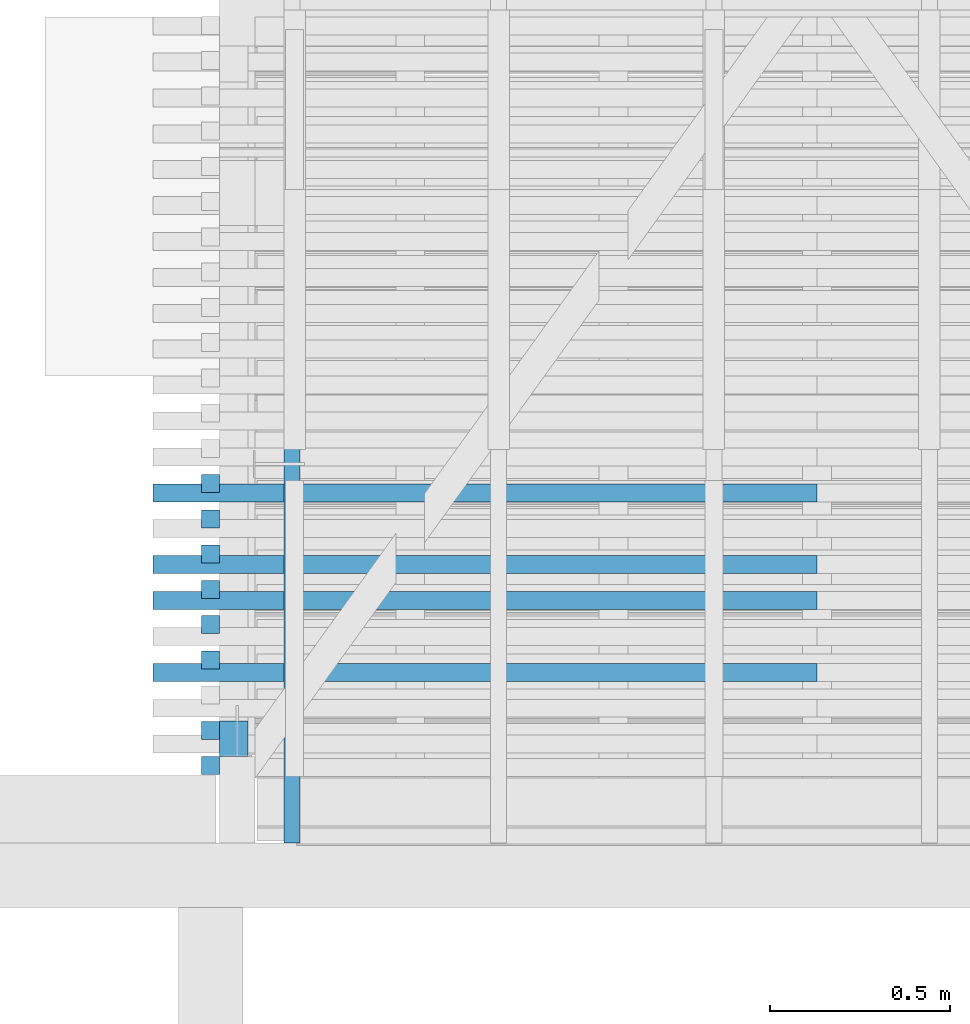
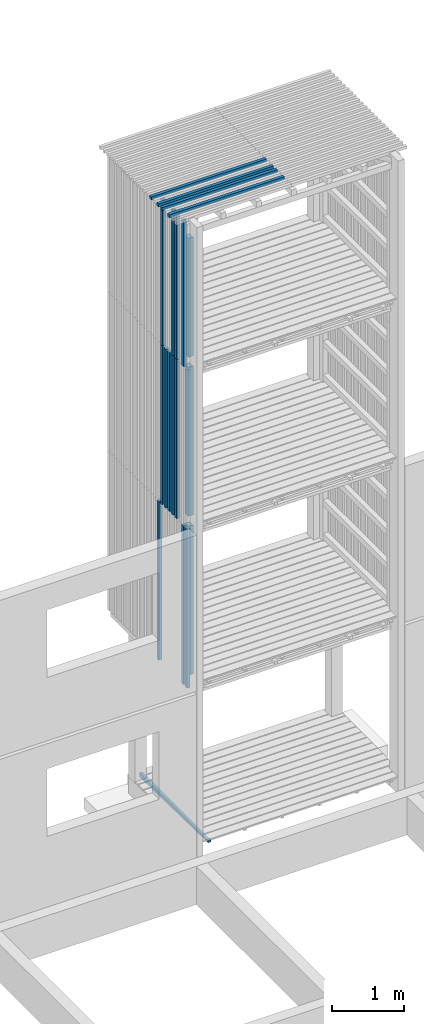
# One storey, part 33 of 182: 20 beams.
"""IFC2X3 building model written with IfcOpenShell, lengths in metres."""

from ifc_helpers import new_model, si_unit, frame, origin, place, context, project, spatial, faceted_brep, element, save


model = new_model("IFC2X3")

# Units and contexts
model_context = context("Model", 3, precision=1e-06, world=origin())
ifc_project = project(units=[si_unit("LENGTHUNIT", "METRE"), si_unit("PLANEANGLEUNIT", "RADIAN")], contexts=[model_context])

# Site, building, storey
site = spatial("IfcSite", under=ifc_project, CompositionType="ELEMENT")
building = spatial("IfcBuilding", under=site, CompositionType="ELEMENT")
storey = spatial("IfcBuildingStorey", under=building, Name="vs", CompositionType="ELEMENT", Elevation=-0.85)

# Beams
placement = place(None, origin())
beam_1_placement = place(placement, frame((14.989197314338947, 11.245077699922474, 10.47999999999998), z_axis=(0.0, 0.0, 1.0), x_axis=(-1.0, 0.0, 0.0)))
element("IfcBeam", 1, at=beam_1_placement, inside=storey, Name="Bardage", context=model_context, shape_type="Brep", body=[
    faceted_brep([(1.850000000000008, -0.024999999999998, -0.024999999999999), (1.850000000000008, -0.024999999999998, 0.025000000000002), (-1e-15, -0.024999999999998, 0.025000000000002), (-1e-15, -0.024999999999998, -0.024999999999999), (1.850000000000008, -0.024999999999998, 0.025000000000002), (1.850000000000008, -0.024999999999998, -0.024999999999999), (1.850000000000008, 0.024999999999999, -0.024999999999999), (1.850000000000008, 0.024999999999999, 0.025000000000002), (1.850000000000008, 0.024999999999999, -0.024999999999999), (1.850000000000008, -0.024999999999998, -0.024999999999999), (-1e-15, -0.024999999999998, -0.024999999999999), (-1e-15, 0.024999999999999, -0.024999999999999), (1.850000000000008, 0.024999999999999, 0.025000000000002), (1.850000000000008, 0.024999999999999, -0.024999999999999), (-1e-15, 0.024999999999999, -0.024999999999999), (-1e-15, 0.024999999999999, 0.025000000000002), (-1e-15, -0.024999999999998, 0.025000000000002), (1.850000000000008, -0.024999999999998, 0.025000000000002), (1.850000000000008, 0.024999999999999, 0.025000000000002), (-1e-15, 0.024999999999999, 0.025000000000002), (-1e-15, -0.024999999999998, -0.024999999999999), (-1e-15, -0.024999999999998, 0.025000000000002), (-1e-15, 0.024999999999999, 0.025000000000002), (-1e-15, 0.024999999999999, -0.024999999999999)], [[[0, 1, 2, 3]], [[4, 5, 6, 7]], [[8, 9, 10, 11]], [[12, 13, 14, 15]], [[16, 17, 18, 19]], [[20, 21, 22, 23]]]),
])
beam_2_placement = place(placement, frame((13.299197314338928, 11.37235042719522, 7.974999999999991), z_axis=(1.0, 0.0, 0.0), x_axis=(0.0, 0.0, 1.0)))
element("IfcBeam", 2, at=beam_2_placement, inside=storey, Name="Bardage", context=model_context, shape_type="Brep", body=[
    faceted_brep([(0.0, -0.024999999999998, 0.025000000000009), (0.0, 0.024999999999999, 0.025000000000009), (0.0, 0.024999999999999, -0.025000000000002), (0.0, -0.024999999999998, -0.025000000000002), (2.479999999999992, 0.024999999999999, -0.025000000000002), (2.479999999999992, 0.024999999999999, 0.025000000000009), (2.479999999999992, -0.024999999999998, 0.025000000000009), (2.479999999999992, -0.024999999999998, -0.025000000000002), (0.0, 0.024999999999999, 0.025000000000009), (0.0, -0.024999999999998, 0.025000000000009), (2.479999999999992, -0.024999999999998, 0.025000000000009), (2.479999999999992, 0.024999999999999, 0.025000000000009), (0.0, 0.024999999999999, -0.025000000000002), (0.0, 0.024999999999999, 0.025000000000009), (2.479999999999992, 0.024999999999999, 0.025000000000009), (2.479999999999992, 0.024999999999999, -0.025000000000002), (0.0, -0.024999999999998, -0.025000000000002), (0.0, 0.024999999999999, -0.025000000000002), (2.479999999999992, 0.024999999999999, -0.025000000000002), (2.479999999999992, -0.024999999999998, -0.025000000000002), (2.479999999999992, -0.024999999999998, 0.025000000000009), (0.0, -0.024999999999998, 0.025000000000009), (0.0, -0.024999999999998, -0.025000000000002), (2.479999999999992, -0.024999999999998, -0.025000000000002)], [[[0, 1, 2, 3]], [[4, 5, 6, 7]], [[8, 9, 10, 11]], [[12, 13, 14, 15]], [[16, 17, 18, 19]], [[20, 21, 22, 23]]]),
])
beam_3_placement = place(placement, frame((13.299197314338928, 11.470532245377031, 2.575000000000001), z_axis=(1.0, 0.0, 0.0), x_axis=(0.0, 0.0, 1.0)))
element("IfcBeam", 3, at=beam_3_placement, inside=storey, Name="Bardage", context=model_context, shape_type="Brep", body=[
    faceted_brep([(2.699961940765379, -0.025000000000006, 0.025000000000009), (2.699961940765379, -0.025000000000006, -0.025000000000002), (2.699961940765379, 0.024999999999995, -0.025000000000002), (2.699961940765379, 0.024999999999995, 0.025000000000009), (0.0, -0.025000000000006, 0.025000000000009), (2.699961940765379, -0.025000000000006, 0.025000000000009), (2.699961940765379, 0.024999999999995, 0.025000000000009), (0.0, 0.024999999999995, 0.025000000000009), (0.0, -0.025000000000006, 0.025000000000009), (0.0, 0.024999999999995, 0.025000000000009), (0.0, 0.024999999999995, -0.025000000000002), (0.0, -0.025000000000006, -0.025000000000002), (0.0, -0.025000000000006, 0.025000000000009), (0.0, -0.025000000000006, -0.025000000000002), (2.699961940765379, -0.025000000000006, -0.025000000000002), (2.699961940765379, -0.025000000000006, 0.025000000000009), (0.0, -0.025000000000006, -0.025000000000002), (0.0, 0.024999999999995, -0.025000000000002), (2.699961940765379, 0.024999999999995, -0.025000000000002), (2.699961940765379, -0.025000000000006, -0.025000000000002), (0.0, 0.024999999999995, -0.025000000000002), (0.0, 0.024999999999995, 0.025000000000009), (2.699961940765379, 0.024999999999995, 0.025000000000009), (2.699961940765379, 0.024999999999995, -0.025000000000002)], [[[0, 1, 2, 3]], [[4, 5, 6, 7]], [[8, 9, 10, 11]], [[12, 13, 14, 15]], [[16, 17, 18, 19]], [[20, 21, 22, 23]]]),
])
beam_4_placement = place(placement, frame((13.299197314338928, 10.78325951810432, 2.575000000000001), z_axis=(1.0, 0.0, 0.0), x_axis=(0.0, 0.0, 1.0)))
element("IfcBeam", 4, at=beam_4_placement, inside=storey, Name="Bardage", context=model_context, shape_type="Brep", body=[
    faceted_brep([(2.699961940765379, -0.024999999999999, 0.025000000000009), (2.699961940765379, -0.024999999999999, -0.025000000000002), (2.699961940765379, 0.025000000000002, -0.025000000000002), (2.699961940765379, 0.025000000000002, 0.025000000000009), (0.0, -0.024999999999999, 0.025000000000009), (2.699961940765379, -0.024999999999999, 0.025000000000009), (2.699961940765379, 0.025000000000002, 0.025000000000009), (0.0, 0.025000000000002, 0.025000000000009), (0.0, -0.024999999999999, 0.025000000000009), (0.0, 0.025000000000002, 0.025000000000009), (0.0, 0.025000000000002, -0.025000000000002), (0.0, -0.024999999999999, -0.025000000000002), (0.0, -0.024999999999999, 0.025000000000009), (0.0, -0.024999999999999, -0.025000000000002), (2.699961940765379, -0.024999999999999, -0.025000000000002), (2.699961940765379, -0.024999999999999, 0.025000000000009), (0.0, -0.024999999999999, -0.025000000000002), (0.0, 0.025000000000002, -0.025000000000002), (2.699961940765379, 0.025000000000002, -0.025000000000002), (2.699961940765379, -0.024999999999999, -0.025000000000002), (0.0, 0.025000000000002, -0.025000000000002), (0.0, 0.025000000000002, 0.025000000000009), (2.699961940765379, 0.025000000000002, 0.025000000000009), (2.699961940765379, 0.025000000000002, -0.025000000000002)], [[[0, 1, 2, 3]], [[4, 5, 6, 7]], [[8, 9, 10, 11]], [[12, 13, 14, 15]], [[16, 17, 18, 19]], [[20, 21, 22, 23]]]),
])
beam_5_placement = place(placement, frame((13.364197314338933, 10.760077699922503, 2.746999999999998), z_axis=(0.0, 1.0, 0.0), x_axis=(0.0, 0.0, 1.0)))
element("IfcBeam", 5, at=beam_5_placement, inside=storey, Name="Support bardage", context=model_context, shape_type="Brep", body=[
    faceted_brep([(2.527961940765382, 0.040000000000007, -0.050000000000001), (2.527961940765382, 0.040000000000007, 0.05), (2.527961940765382, -0.039999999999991, 0.05), (2.527961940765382, -0.039999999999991, -0.050000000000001), (0.0, 0.040000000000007, -0.050000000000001), (2.527961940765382, 0.040000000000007, -0.050000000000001), (2.527961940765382, -0.039999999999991, -0.050000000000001), (0.0, -0.039999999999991, -0.050000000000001), (0.0, 0.040000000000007, -0.050000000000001), (0.0, -0.039999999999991, -0.050000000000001), (0.0, -0.039999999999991, 0.05), (0.0, 0.040000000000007, 0.05), (0.0, 0.040000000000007, -0.050000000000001), (0.0, 0.040000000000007, 0.05), (2.527961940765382, 0.040000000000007, 0.05), (2.527961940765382, 0.040000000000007, -0.050000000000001), (0.0, 0.040000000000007, 0.05), (0.0, -0.039999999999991, 0.05), (2.527961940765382, -0.039999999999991, 0.05), (2.527961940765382, 0.040000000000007, 0.05), (0.0, -0.039999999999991, 0.05), (0.0, -0.039999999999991, -0.050000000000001), (2.527961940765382, -0.039999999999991, -0.050000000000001), (2.527961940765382, -0.039999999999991, 0.05)], [[[0, 1, 2, 3]], [[4, 5, 6, 7]], [[8, 9, 10, 11]], [[12, 13, 14, 15]], [[16, 17, 18, 19]], [[20, 21, 22, 23]]]),
])
beam_6_placement = place(placement, frame((13.299197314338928, 10.78325951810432, 7.974999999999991), z_axis=(1.0, 0.0, 0.0), x_axis=(0.0, 0.0, 1.0)))
element("IfcBeam", 6, at=beam_6_placement, inside=storey, Name="Bardage", context=model_context, shape_type="Brep", body=[
    faceted_brep([(0.0, -0.024999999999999, 0.025000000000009), (0.0, 0.025000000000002, 0.025000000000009), (0.0, 0.025000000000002, -0.025000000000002), (0.0, -0.024999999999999, -0.025000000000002), (2.479999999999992, 0.025000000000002, -0.025000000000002), (2.479999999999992, 0.025000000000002, 0.025000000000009), (2.479999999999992, -0.024999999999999, 0.025000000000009), (2.479999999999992, -0.024999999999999, -0.025000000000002), (0.0, 0.025000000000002, 0.025000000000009), (0.0, -0.024999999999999, 0.025000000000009), (2.479999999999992, -0.024999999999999, 0.025000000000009), (2.479999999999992, 0.025000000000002, 0.025000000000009), (0.0, 0.025000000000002, -0.025000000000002), (0.0, 0.025000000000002, 0.025000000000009), (2.479999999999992, 0.025000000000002, 0.025000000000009), (2.479999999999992, 0.025000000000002, -0.025000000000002), (0.0, -0.024999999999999, -0.025000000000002), (0.0, 0.025000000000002, -0.025000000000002), (2.479999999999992, 0.025000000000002, -0.025000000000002), (2.479999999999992, -0.024999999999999, -0.025000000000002), (2.479999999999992, -0.024999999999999, 0.025000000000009), (0.0, -0.024999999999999, 0.025000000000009), (0.0, -0.024999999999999, -0.025000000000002), (2.479999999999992, -0.024999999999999, -0.025000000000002)], [[[0, 1, 2, 3]], [[4, 5, 6, 7]], [[8, 9, 10, 11]], [[12, 13, 14, 15]], [[16, 17, 18, 19]], [[20, 21, 22, 23]]]),
])
beam_7_placement = place(placement, frame((13.299197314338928, 11.274168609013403, 5.274999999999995), z_axis=(1.0, 0.0, 0.0), x_axis=(0.0, 0.0, 1.0)))
element("IfcBeam", 7, at=beam_7_placement, inside=storey, Name="Bardage", context=model_context, shape_type="Brep", body=[
    faceted_brep([(2.699999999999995, 0.025000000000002, 0.025000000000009), (2.699999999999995, -0.025000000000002, 0.025000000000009), (2.699999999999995, -0.025000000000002, -0.025000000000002), (2.699999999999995, 0.025000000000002, -0.025000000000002), (1e-15, 0.025000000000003, 0.025000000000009), (2.699999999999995, 0.025000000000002, 0.025000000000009), (2.699999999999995, 0.025000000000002, -0.025000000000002), (1e-15, 0.025000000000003, -0.025000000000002), (1e-15, -0.025000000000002, 0.025000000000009), (1e-15, 0.025000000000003, 0.025000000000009), (1e-15, 0.025000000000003, -0.025000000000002), (1e-15, -0.025000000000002, -0.025000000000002), (1e-15, 0.025000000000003, 0.025000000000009), (1e-15, -0.025000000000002, 0.025000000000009), (2.699999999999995, -0.025000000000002, 0.025000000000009), (2.699999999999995, 0.025000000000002, 0.025000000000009), (1e-15, -0.025000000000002, 0.025000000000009), (1e-15, -0.025000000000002, -0.025000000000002), (2.699999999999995, -0.025000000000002, -0.025000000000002), (2.699999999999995, -0.025000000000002, 0.025000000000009), (1e-15, -0.025000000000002, -0.025000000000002), (1e-15, 0.025000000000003, -0.025000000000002), (2.699999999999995, 0.025000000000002, -0.025000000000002), (2.699999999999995, -0.025000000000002, -0.025000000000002)], [[[0, 1, 2, 3]], [[4, 5, 6, 7]], [[8, 9, 10, 11]], [[12, 13, 14, 15]], [[16, 17, 18, 19]], [[20, 21, 22, 23]]]),
])
beam_8_placement = place(placement, frame((13.364197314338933, 10.760077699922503, 5.446999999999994), z_axis=(0.0, 1.0, 0.0), x_axis=(0.0, 0.0, 1.0)))
element("IfcBeam", 8, at=beam_8_placement, inside=storey, Name="Support bardage", context=model_context, shape_type="Brep", body=[
    faceted_brep([(2.527999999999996, -0.039999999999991, -0.050000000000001), (2.527999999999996, 0.040000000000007, -0.050000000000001), (2.527999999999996, 0.040000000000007, 0.05), (2.527999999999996, -0.039999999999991, 0.05), (-1e-15, -0.039999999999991, -0.050000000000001), (2.527999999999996, -0.039999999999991, -0.050000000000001), (2.527999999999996, -0.039999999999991, 0.05), (-1e-15, -0.039999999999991, 0.05), (-1e-15, -0.039999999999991, -0.050000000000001), (-1e-15, -0.039999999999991, 0.05), (-1e-15, 0.040000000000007, 0.05), (-1e-15, 0.040000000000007, -0.050000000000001), (-1e-15, -0.039999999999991, -0.050000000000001), (-1e-15, 0.040000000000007, -0.050000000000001), (2.527999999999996, 0.040000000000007, -0.050000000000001), (2.527999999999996, -0.039999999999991, -0.050000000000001), (-1e-15, 0.040000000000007, -0.050000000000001), (-1e-15, 0.040000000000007, 0.05), (2.527999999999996, 0.040000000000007, 0.05), (2.527999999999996, 0.040000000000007, -0.050000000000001), (-1e-15, 0.040000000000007, 0.05), (-1e-15, -0.039999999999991, 0.05), (2.527999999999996, -0.039999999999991, 0.05), (2.527999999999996, 0.040000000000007, 0.05)], [[[0, 1, 2, 3]], [[4, 5, 6, 7]], [[8, 9, 10, 11]], [[12, 13, 14, 15]], [[16, 17, 18, 19]], [[20, 21, 22, 23]]]),
])
beam_9_placement = place(placement, frame((13.299197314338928, 11.07780497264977, 5.274999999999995), z_axis=(1.0, 0.0, 0.0), x_axis=(0.0, 0.0, 1.0)))
element("IfcBeam", 9, at=beam_9_placement, inside=storey, Name="Bardage", context=model_context, shape_type="Brep", body=[
    faceted_brep([(2.699999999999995, 0.025000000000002, 0.025000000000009), (2.699999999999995, -0.024999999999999, 0.025000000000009), (2.699999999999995, -0.024999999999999, -0.025000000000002), (2.699999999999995, 0.025000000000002, -0.025000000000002), (1e-15, 0.025000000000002, 0.025000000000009), (2.699999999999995, 0.025000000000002, 0.025000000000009), (2.699999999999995, 0.025000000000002, -0.025000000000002), (1e-15, 0.025000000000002, -0.025000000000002), (1e-15, -0.024999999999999, 0.025000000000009), (1e-15, 0.025000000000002, 0.025000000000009), (1e-15, 0.025000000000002, -0.025000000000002), (1e-15, -0.024999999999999, -0.025000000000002), (1e-15, 0.025000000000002, 0.025000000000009), (1e-15, -0.024999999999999, 0.025000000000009), (2.699999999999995, -0.024999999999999, 0.025000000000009), (2.699999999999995, 0.025000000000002, 0.025000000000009), (1e-15, -0.024999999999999, 0.025000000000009), (1e-15, -0.024999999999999, -0.025000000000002), (2.699999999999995, -0.024999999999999, -0.025000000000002), (2.699999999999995, -0.024999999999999, 0.025000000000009), (1e-15, -0.024999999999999, -0.025000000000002), (1e-15, 0.025000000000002, -0.025000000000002), (2.699999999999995, 0.025000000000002, -0.025000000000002), (2.699999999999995, -0.024999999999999, -0.025000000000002)], [[[0, 1, 2, 3]], [[4, 5, 6, 7]], [[8, 9, 10, 11]], [[12, 13, 14, 15]], [[16, 17, 18, 19]], [[20, 21, 22, 23]]]),
])
beam_10_placement = place(placement, frame((13.364197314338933, 10.760077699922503, 8.14699999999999), z_axis=(0.0, 1.0, 0.0), x_axis=(0.0, 0.0, 1.0)))
element("IfcBeam", 10, at=beam_10_placement, inside=storey, Name="Support bardage", context=model_context, shape_type="Brep", body=[
    faceted_brep([(2.017999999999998, -0.039999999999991, 0.05), (2.017999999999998, -0.039999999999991, -0.050000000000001), (2.017999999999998, 0.040000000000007, -0.050000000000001), (2.017999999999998, 0.040000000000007, 0.05), (1e-15, -0.039999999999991, -0.050000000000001), (1e-15, -0.039999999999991, 0.05), (1e-15, 0.040000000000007, 0.05), (1e-15, 0.040000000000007, -0.050000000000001), (2.017999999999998, 0.040000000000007, -0.050000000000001), (2.017999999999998, -0.039999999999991, -0.050000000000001), (1e-15, -0.039999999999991, -0.050000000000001), (1e-15, 0.040000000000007, -0.050000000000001), (1e-15, -0.039999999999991, -0.050000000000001), (2.017999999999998, -0.039999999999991, -0.050000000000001), (2.017999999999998, -0.039999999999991, 0.05), (1e-15, -0.039999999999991, 0.05), (1e-15, -0.039999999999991, 0.05), (2.017999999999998, -0.039999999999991, 0.05), (2.017999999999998, 0.040000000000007, 0.05), (1e-15, 0.040000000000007, 0.05), (1e-15, 0.040000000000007, 0.05), (2.017999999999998, 0.040000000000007, 0.05), (2.017999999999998, 0.040000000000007, -0.050000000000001), (1e-15, 0.040000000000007, -0.050000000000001)], [[[0, 1, 2, 3]], [[4, 5, 6, 7]], [[8, 9, 10, 11]], [[12, 13, 14, 15]], [[16, 17, 18, 19]], [[20, 21, 22, 23]]]),
])
beam_11_placement = place(placement, frame((14.989197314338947, 11.445077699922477, 10.47999999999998), z_axis=(0.0, 0.0, 1.0), x_axis=(-1.0, -2e-15, 0.0)))
element("IfcBeam", 11, at=beam_11_placement, inside=storey, Name="Bardage", context=model_context, shape_type="Brep", body=[
    faceted_brep([(1.850000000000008, -0.025000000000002, -0.024999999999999), (1.850000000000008, -0.025000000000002, 0.025000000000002), (-1e-15, -0.024999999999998, 0.025000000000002), (-1e-15, -0.024999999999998, -0.024999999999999), (1.850000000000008, -0.025000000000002, 0.025000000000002), (1.850000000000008, -0.025000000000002, -0.024999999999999), (1.850000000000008, 0.025000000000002, -0.024999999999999), (1.850000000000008, 0.025000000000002, 0.025000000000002), (1.850000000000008, 0.025000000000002, -0.024999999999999), (1.850000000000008, -0.025000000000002, -0.024999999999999), (-1e-15, -0.024999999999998, -0.024999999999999), (-1e-15, 0.025000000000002, -0.024999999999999), (1.850000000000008, 0.025000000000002, 0.025000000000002), (1.850000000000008, 0.025000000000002, -0.024999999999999), (-1e-15, 0.025000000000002, -0.024999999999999), (-1e-15, 0.025000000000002, 0.025000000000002), (-1e-15, -0.024999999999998, 0.025000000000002), (1.850000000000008, -0.025000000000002, 0.025000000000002), (1.850000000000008, 0.025000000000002, 0.025000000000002), (-1e-15, 0.025000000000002, 0.025000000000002), (-1e-15, -0.024999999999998, -0.024999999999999), (-1e-15, -0.024999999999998, 0.025000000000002), (-1e-15, 0.025000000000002, 0.025000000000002), (-1e-15, 0.025000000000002, -0.024999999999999)], [[[0, 1, 2, 3]], [[4, 5, 6, 7]], [[8, 9, 10, 11]], [[12, 13, 14, 15]], [[16, 17, 18, 19]], [[20, 21, 22, 23]]]),
])
beam_12_placement = place(placement, frame((13.299197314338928, 10.97962315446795, 5.274999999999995), z_axis=(1.0, 0.0, 0.0), x_axis=(0.0, 1e-15, 1.0)))
element("IfcBeam", 12, at=beam_12_placement, inside=storey, Name="Bardage", context=model_context, shape_type="Brep", body=[
    faceted_brep([(2.699999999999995, 0.025000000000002, 0.025000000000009), (2.699999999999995, -0.024999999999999, 0.025000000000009), (2.699999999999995, -0.024999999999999, -0.025000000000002), (2.699999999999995, 0.025000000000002, -0.025000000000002), (1e-15, 0.024999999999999, 0.025000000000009), (2.699999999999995, 0.025000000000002, 0.025000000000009), (2.699999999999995, 0.025000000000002, -0.025000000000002), (1e-15, 0.024999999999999, -0.025000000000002), (1e-15, -0.025000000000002, 0.025000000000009), (1e-15, 0.024999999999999, 0.025000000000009), (1e-15, 0.024999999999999, -0.025000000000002), (1e-15, -0.025000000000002, -0.025000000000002), (1e-15, 0.024999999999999, 0.025000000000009), (1e-15, -0.025000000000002, 0.025000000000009), (2.699999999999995, -0.024999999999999, 0.025000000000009), (2.699999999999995, 0.025000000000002, 0.025000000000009), (1e-15, -0.025000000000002, 0.025000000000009), (1e-15, -0.025000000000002, -0.025000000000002), (2.699999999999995, -0.024999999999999, -0.025000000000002), (2.699999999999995, -0.024999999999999, 0.025000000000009), (1e-15, -0.025000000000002, -0.025000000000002), (1e-15, 0.024999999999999, -0.025000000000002), (2.699999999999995, 0.025000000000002, -0.025000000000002), (2.699999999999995, -0.024999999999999, -0.025000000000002)], [[[0, 1, 2, 3]], [[4, 5, 6, 7]], [[8, 9, 10, 11]], [[12, 13, 14, 15]], [[16, 17, 18, 19]], [[20, 21, 22, 23]]]),
])
beam_13_placement = place(placement, frame((13.299197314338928, 11.175986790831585, 5.274999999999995), z_axis=(1.0, 0.0, 0.0), x_axis=(0.0, 0.0, 1.0)))
element("IfcBeam", 13, at=beam_13_placement, inside=storey, Name="Bardage", context=model_context, shape_type="Brep", body=[
    faceted_brep([(2.699999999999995, 0.024999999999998, 0.025000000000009), (2.699999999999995, -0.024999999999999, 0.025000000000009), (2.699999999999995, -0.024999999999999, -0.025000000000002), (2.699999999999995, 0.024999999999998, -0.025000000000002), (1e-15, 0.024999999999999, 0.025000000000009), (2.699999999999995, 0.024999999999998, 0.025000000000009), (2.699999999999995, 0.024999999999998, -0.025000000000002), (1e-15, 0.024999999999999, -0.025000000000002), (1e-15, -0.024999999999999, 0.025000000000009), (1e-15, 0.024999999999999, 0.025000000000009), (1e-15, 0.024999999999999, -0.025000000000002), (1e-15, -0.024999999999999, -0.025000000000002), (1e-15, 0.024999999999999, 0.025000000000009), (1e-15, -0.024999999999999, 0.025000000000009), (2.699999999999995, -0.024999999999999, 0.025000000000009), (2.699999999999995, 0.024999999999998, 0.025000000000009), (1e-15, -0.024999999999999, 0.025000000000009), (1e-15, -0.024999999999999, -0.025000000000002), (2.699999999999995, -0.024999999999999, -0.025000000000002), (2.699999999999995, -0.024999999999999, 0.025000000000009), (1e-15, -0.024999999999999, -0.025000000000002), (1e-15, 0.024999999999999, -0.025000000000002), (2.699999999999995, 0.024999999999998, -0.025000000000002), (2.699999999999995, -0.024999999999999, -0.025000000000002)], [[[0, 1, 2, 3]], [[4, 5, 6, 7]], [[8, 9, 10, 11]], [[12, 13, 14, 15]], [[16, 17, 18, 19]], [[20, 21, 22, 23]]]),
])
beam_14_placement = place(placement, frame((13.299197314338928, 10.97962315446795, 7.974999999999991), z_axis=(1.0, 0.0, 0.0), x_axis=(0.0, 1e-15, 1.0)))
element("IfcBeam", 14, at=beam_14_placement, inside=storey, Name="Bardage", context=model_context, shape_type="Brep", body=[
    faceted_brep([(0.0, -0.025000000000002, 0.025000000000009), (0.0, 0.024999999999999, 0.025000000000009), (0.0, 0.024999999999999, -0.025000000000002), (0.0, -0.025000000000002, -0.025000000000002), (2.479999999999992, 0.025000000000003, -0.025000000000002), (2.479999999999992, 0.025000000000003, 0.025000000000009), (2.479999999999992, -0.024999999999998, 0.025000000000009), (2.479999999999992, -0.024999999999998, -0.025000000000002), (0.0, 0.024999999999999, 0.025000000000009), (0.0, -0.025000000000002, 0.025000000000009), (2.479999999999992, -0.024999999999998, 0.025000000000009), (2.479999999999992, 0.025000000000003, 0.025000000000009), (0.0, 0.024999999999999, -0.025000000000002), (0.0, 0.024999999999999, 0.025000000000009), (2.479999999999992, 0.025000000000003, 0.025000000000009), (2.479999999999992, 0.025000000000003, -0.025000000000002), (0.0, -0.025000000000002, -0.025000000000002), (0.0, 0.024999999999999, -0.025000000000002), (2.479999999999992, 0.025000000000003, -0.025000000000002), (2.479999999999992, -0.024999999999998, -0.025000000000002), (2.479999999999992, -0.024999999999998, 0.025000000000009), (0.0, -0.025000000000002, 0.025000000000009), (0.0, -0.025000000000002, -0.025000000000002), (2.479999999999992, -0.024999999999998, -0.025000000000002)], [[[0, 1, 2, 3]], [[4, 5, 6, 7]], [[8, 9, 10, 11]], [[12, 13, 14, 15]], [[16, 17, 18, 19]], [[20, 21, 22, 23]]]),
])
beam_15_placement = place(placement, frame((14.989197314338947, 11.145077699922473, 10.47999999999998), z_axis=(0.0, 0.0, 1.0), x_axis=(-1.0, 0.0, 0.0)))
element("IfcBeam", 15, at=beam_15_placement, inside=storey, Name="Bardage", context=model_context, shape_type="Brep", body=[
    faceted_brep([(1.850000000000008, -0.024999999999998, -0.024999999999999), (1.850000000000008, -0.024999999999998, 0.025000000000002), (-1e-15, -0.025000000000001, 0.025000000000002), (-1e-15, -0.025000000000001, -0.024999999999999), (1.850000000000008, -0.024999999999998, 0.025000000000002), (1.850000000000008, -0.024999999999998, -0.024999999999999), (1.850000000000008, 0.024999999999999, -0.024999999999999), (1.850000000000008, 0.024999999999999, 0.025000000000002), (1.850000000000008, 0.024999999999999, -0.024999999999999), (1.850000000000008, -0.024999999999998, -0.024999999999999), (-1e-15, -0.025000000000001, -0.024999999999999), (-1e-15, 0.024999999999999, -0.024999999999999), (1.850000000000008, 0.024999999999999, 0.025000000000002), (1.850000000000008, 0.024999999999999, -0.024999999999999), (-1e-15, 0.024999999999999, -0.024999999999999), (-1e-15, 0.024999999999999, 0.025000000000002), (-1e-15, -0.025000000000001, 0.025000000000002), (1.850000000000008, -0.024999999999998, 0.025000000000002), (1.850000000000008, 0.024999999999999, 0.025000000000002), (-1e-15, 0.024999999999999, 0.025000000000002), (-1e-15, -0.025000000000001, -0.024999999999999), (-1e-15, -0.025000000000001, 0.025000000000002), (-1e-15, 0.024999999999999, 0.025000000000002), (-1e-15, 0.024999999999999, -0.024999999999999)], [[[0, 1, 2, 3]], [[4, 5, 6, 7]], [[8, 9, 10, 11]], [[12, 13, 14, 15]], [[16, 17, 18, 19]], [[20, 21, 22, 23]]]),
])
beam_16_placement = place(placement, frame((13.299197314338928, 11.07780497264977, 7.974999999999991), z_axis=(1.0, 0.0, 0.0), x_axis=(0.0, 0.0, 1.0)))
element("IfcBeam", 16, at=beam_16_placement, inside=storey, Name="Bardage", context=model_context, shape_type="Brep", body=[
    faceted_brep([(0.0, -0.024999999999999, 0.025000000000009), (0.0, 0.025000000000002, 0.025000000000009), (0.0, 0.025000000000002, -0.025000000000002), (0.0, -0.024999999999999, -0.025000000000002), (2.479999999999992, 0.025000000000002, -0.025000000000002), (2.479999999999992, 0.025000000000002, 0.025000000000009), (2.479999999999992, -0.024999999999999, 0.025000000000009), (2.479999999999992, -0.024999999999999, -0.025000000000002), (0.0, 0.025000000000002, 0.025000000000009), (0.0, -0.024999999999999, 0.025000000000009), (2.479999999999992, -0.024999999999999, 0.025000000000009), (2.479999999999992, 0.025000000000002, 0.025000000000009), (0.0, 0.025000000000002, -0.025000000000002), (0.0, 0.025000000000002, 0.025000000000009), (2.479999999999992, 0.025000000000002, 0.025000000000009), (2.479999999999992, 0.025000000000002, -0.025000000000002), (0.0, -0.024999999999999, -0.025000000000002), (0.0, 0.025000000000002, -0.025000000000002), (2.479999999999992, 0.025000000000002, -0.025000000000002), (2.479999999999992, -0.024999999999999, -0.025000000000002), (2.479999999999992, -0.024999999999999, 0.025000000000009), (0.0, -0.024999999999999, 0.025000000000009), (0.0, -0.024999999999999, -0.025000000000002), (2.479999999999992, -0.024999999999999, -0.025000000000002)], [[[0, 1, 2, 3]], [[4, 5, 6, 7]], [[8, 9, 10, 11]], [[12, 13, 14, 15]], [[16, 17, 18, 19]], [[20, 21, 22, 23]]]),
])
beam_17_placement = place(placement, frame((13.526697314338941, 10.470077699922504, -0.015599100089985), z_axis=(0.0, 0.0, 1.0), x_axis=(0.0, 1.0, 0.0)))
element("IfcBeam", 17, at=beam_17_placement, inside=storey, Name="Calage", context=model_context, shape_type="Brep", body=[
    faceted_brep([(0.0, 0.022500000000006, 0.002600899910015), (1.910000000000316, 0.022500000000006, -0.035599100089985), (1.910000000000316, -0.022499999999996, -0.035599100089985), (0.0, -0.022499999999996, 0.002600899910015), (0.0, -0.022499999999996, 0.035599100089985), (0.0, 0.022500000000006, 0.035599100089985), (0.0, 0.022500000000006, 0.002600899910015), (0.0, -0.022499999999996, 0.002600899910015), (0.0, 0.022500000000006, 0.035599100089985), (0.0, -0.022499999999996, 0.035599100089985), (1.910000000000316, -0.022499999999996, 0.035599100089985), (1.910000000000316, 0.022500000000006, 0.035599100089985), (0.0, 0.022500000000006, 0.002600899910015), (0.0, 0.022500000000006, 0.035599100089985), (1.910000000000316, 0.022500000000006, 0.035599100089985), (1.910000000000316, 0.022500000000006, -0.035599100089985), (1.910000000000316, 0.022500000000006, -0.035599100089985), (1.910000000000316, 0.022500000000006, 0.035599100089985), (1.910000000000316, -0.022499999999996, 0.035599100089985), (1.910000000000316, -0.022499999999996, -0.035599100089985), (1.910000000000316, -0.022499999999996, -0.035599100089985), (1.910000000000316, -0.022499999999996, 0.035599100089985), (0.0, -0.022499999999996, 0.035599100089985), (0.0, -0.022499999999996, 0.002600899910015)], [[[0, 1, 2, 3]], [[4, 5, 6, 7]], [[8, 9, 10, 11]], [[12, 13, 14, 15]], [[16, 17, 18, 19]], [[20, 21, 22, 23]]]),
])
beam_18_placement = place(placement, frame((13.299197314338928, 10.685077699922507, 2.575000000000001), z_axis=(1.0, 0.0, 0.0), x_axis=(0.0, 0.0, 1.0)))
element("IfcBeam", 18, at=beam_18_placement, inside=storey, Name="Bardage", context=model_context, shape_type="Brep", body=[
    faceted_brep([(2.699961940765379, -0.024999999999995, 0.025000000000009), (2.699961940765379, -0.024999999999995, -0.025000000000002), (2.699961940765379, 0.025000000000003, -0.025000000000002), (2.699961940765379, 0.025000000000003, 0.025000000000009), (0.0, -0.024999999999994, 0.025000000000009), (2.699961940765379, -0.024999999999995, 0.025000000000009), (2.699961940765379, 0.025000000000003, 0.025000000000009), (0.0, 0.025000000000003, 0.025000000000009), (0.0, -0.024999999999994, 0.025000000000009), (0.0, 0.025000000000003, 0.025000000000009), (0.0, 0.025000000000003, -0.025000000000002), (0.0, -0.024999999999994, -0.025000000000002), (0.0, -0.024999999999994, 0.025000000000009), (0.0, -0.024999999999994, -0.025000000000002), (2.699961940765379, -0.024999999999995, -0.025000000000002), (2.699961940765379, -0.024999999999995, 0.025000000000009), (0.0, -0.024999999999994, -0.025000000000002), (0.0, 0.025000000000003, -0.025000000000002), (2.699961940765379, 0.025000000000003, -0.025000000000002), (2.699961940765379, -0.024999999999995, -0.025000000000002), (0.0, 0.025000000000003, -0.025000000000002), (0.0, 0.025000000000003, 0.025000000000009), (2.699961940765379, 0.025000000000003, 0.025000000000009), (2.699961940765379, 0.025000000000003, -0.025000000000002)], [[[0, 1, 2, 3]], [[4, 5, 6, 7]], [[8, 9, 10, 11]], [[12, 13, 14, 15]], [[16, 17, 18, 19]], [[20, 21, 22, 23]]]),
])
beam_19_placement = place(placement, frame((13.299197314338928, 11.37235042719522, 5.274999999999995), z_axis=(1.0, 0.0, 0.0), x_axis=(0.0, 0.0, 1.0)))
element("IfcBeam", 19, at=beam_19_placement, inside=storey, Name="Bardage", context=model_context, shape_type="Brep", body=[
    faceted_brep([(2.699999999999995, 0.024999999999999, 0.025000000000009), (2.699999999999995, -0.024999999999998, 0.025000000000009), (2.699999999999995, -0.024999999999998, -0.025000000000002), (2.699999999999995, 0.024999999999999, -0.025000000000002), (1e-15, 0.024999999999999, 0.025000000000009), (2.699999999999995, 0.024999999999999, 0.025000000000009), (2.699999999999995, 0.024999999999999, -0.025000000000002), (1e-15, 0.024999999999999, -0.025000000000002), (1e-15, -0.024999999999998, 0.025000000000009), (1e-15, 0.024999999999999, 0.025000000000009), (1e-15, 0.024999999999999, -0.025000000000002), (1e-15, -0.024999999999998, -0.025000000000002), (1e-15, 0.024999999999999, 0.025000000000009), (1e-15, -0.024999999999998, 0.025000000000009), (2.699999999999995, -0.024999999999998, 0.025000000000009), (2.699999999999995, 0.024999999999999, 0.025000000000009), (1e-15, -0.024999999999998, 0.025000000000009), (1e-15, -0.024999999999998, -0.025000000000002), (2.699999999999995, -0.024999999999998, -0.025000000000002), (2.699999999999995, -0.024999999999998, 0.025000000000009), (1e-15, -0.024999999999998, -0.025000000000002), (1e-15, 0.024999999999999, -0.025000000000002), (2.699999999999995, 0.024999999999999, -0.025000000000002), (2.699999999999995, -0.024999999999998, -0.025000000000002)], [[[0, 1, 2, 3]], [[4, 5, 6, 7]], [[8, 9, 10, 11]], [[12, 13, 14, 15]], [[16, 17, 18, 19]], [[20, 21, 22, 23]]]),
])
beam_20_placement = place(placement, frame((14.989197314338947, 10.945077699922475, 10.47999999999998), z_axis=(0.0, 0.0, 1.0), x_axis=(-1.0, -2e-15, 0.0)))
element("IfcBeam", 20, at=beam_20_placement, inside=storey, Name="Bardage", context=model_context, shape_type="Brep", body=[
    faceted_brep([(1.850000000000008, -0.025000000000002, -0.024999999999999), (1.850000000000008, -0.025000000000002, 0.025000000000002), (-1e-15, -0.024999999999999, 0.025000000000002), (-1e-15, -0.024999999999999, -0.024999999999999), (1.850000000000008, -0.025000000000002, 0.025000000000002), (1.850000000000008, -0.025000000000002, -0.024999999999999), (1.850000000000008, 0.025000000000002, -0.024999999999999), (1.850000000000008, 0.025000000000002, 0.025000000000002), (1.850000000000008, 0.025000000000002, -0.024999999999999), (1.850000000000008, -0.025000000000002, -0.024999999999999), (-1e-15, -0.024999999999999, -0.024999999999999), (0.0, 0.025000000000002, -0.024999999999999), (1.850000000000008, 0.025000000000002, 0.025000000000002), (1.850000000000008, 0.025000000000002, -0.024999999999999), (0.0, 0.025000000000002, -0.024999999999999), (0.0, 0.025000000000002, 0.025000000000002), (-1e-15, -0.024999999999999, 0.025000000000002), (1.850000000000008, -0.025000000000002, 0.025000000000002), (1.850000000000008, 0.025000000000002, 0.025000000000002), (0.0, 0.025000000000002, 0.025000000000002), (-1e-15, -0.024999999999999, -0.024999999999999), (-1e-15, -0.024999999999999, 0.025000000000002), (0.0, 0.025000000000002, 0.025000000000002), (0.0, 0.025000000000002, -0.024999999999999)], [[[0, 1, 2, 3]], [[4, 5, 6, 7]], [[8, 9, 10, 11]], [[12, 13, 14, 15]], [[16, 17, 18, 19]], [[20, 21, 22, 23]]]),
])

save(model, "model.ifc")
